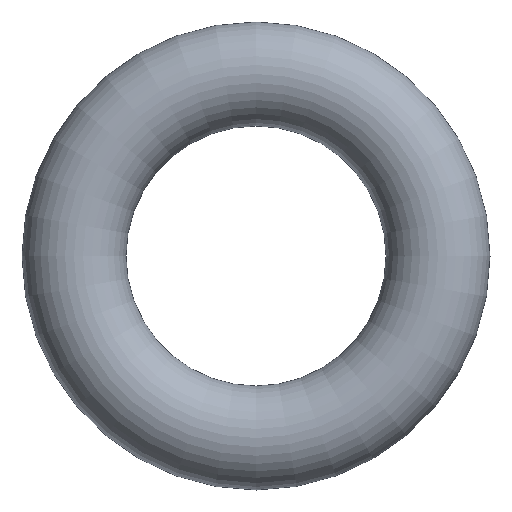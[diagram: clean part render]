
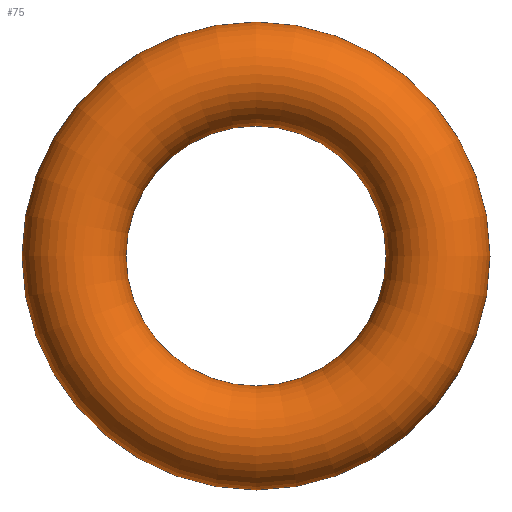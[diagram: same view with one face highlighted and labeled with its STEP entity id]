
A CAD part, front view. The second image highlights one B-rep face of the part: STEP entity #75.
In plain terms, the highlighted toroidal (fillet/blend) face has major radius 1.75 mm and minor radius 0.5 mm.
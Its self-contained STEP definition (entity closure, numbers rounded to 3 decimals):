
#75 = ADVANCED_FACE( '', ( #77 ), #78, .T. );
#77 = FACE_BOUND( '', #79, .T. );
#78 = TOROIDAL_SURFACE( '', #80, 1.75, 0.5 );
#79 = VERTEX_LOOP( '', #81 );
#80 = AXIS2_PLACEMENT_3D( '', #82, #83, #84 );
#81 = VERTEX_POINT( '', #85 );
#82 = CARTESIAN_POINT( '', ( 0., 0., 0. ) );
#83 = DIRECTION( '', ( 0., -1., 0. ) );
#84 = DIRECTION( '', ( 0., 0., -1. ) );
#85 = CARTESIAN_POINT( '', ( 0., 0., -2.25 ) );
